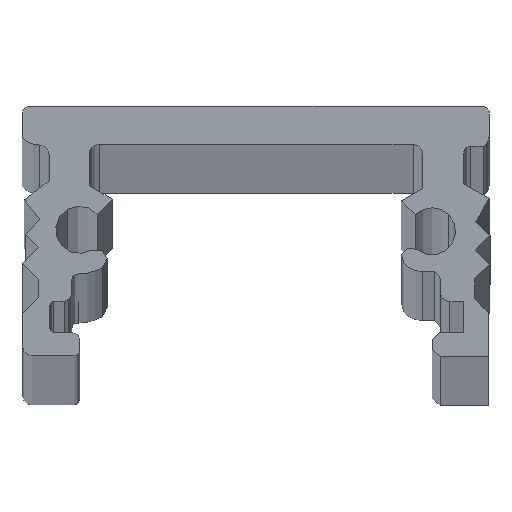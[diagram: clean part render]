
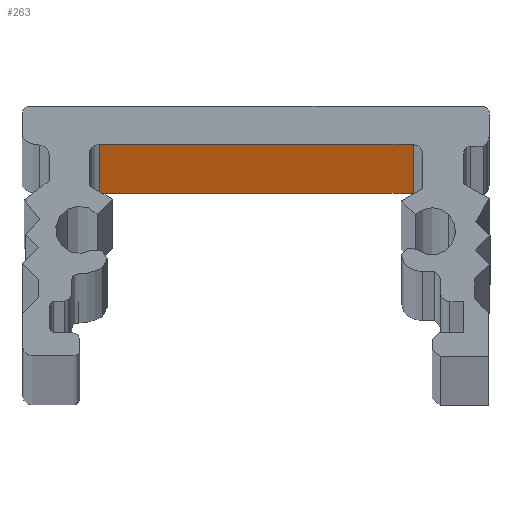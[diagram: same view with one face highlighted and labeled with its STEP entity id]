
A CAD part, top view. The second image highlights one B-rep face of the part: STEP entity #263.
In plain terms, the highlighted planar face has unit normal (0, -1, 0).
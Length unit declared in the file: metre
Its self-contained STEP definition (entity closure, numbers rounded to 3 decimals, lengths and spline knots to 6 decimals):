
#263=ADVANCED_FACE('4:12282',(#716),#717,.T.);
#716=FACE_OUTER_BOUND('',#1224,.T.);
#717=PLANE('',#1225);
#1224=EDGE_LOOP('',(#1946,#1947,#1948,#1949));
#1225=AXIS2_PLACEMENT_3D('',#1950,#1951,#1952);
#1946=ORIENTED_EDGE('',*,*,#2741,.T.);
#1947=ORIENTED_EDGE('',*,*,#2723,.T.);
#1948=ORIENTED_EDGE('',*,*,#2744,.F.);
#1949=ORIENTED_EDGE('',*,*,#2745,.T.);
#1950=CARTESIAN_POINT('',(-0.013628,0.013608,0.0));
#1951=DIRECTION('',(-0.0,-1.0,-0.0));
#1952=DIRECTION('',(-1.0,0.0,0.0));
#2723=EDGE_CURVE('4:12525',#3083,#3081,#3084,.F.);
#2741=EDGE_CURVE('4:12519',#3109,#3083,#3110,.T.);
#2744=EDGE_CURVE('4:12528',#3113,#3081,#3114,.T.);
#2745=EDGE_CURVE('4:12531',#3113,#3109,#3115,.T.);
#3081=VERTEX_POINT('',#3556);
#3083=VERTEX_POINT('',#3558);
#3084=LINE('',#3559,#3560);
#3109=VERTEX_POINT('',#3595);
#3110=LINE('',#3596,#3597);
#3113=VERTEX_POINT('',#3600);
#3114=LINE('',#3601,#3602);
#3115=LINE('',#3603,#3604);
#3556=CARTESIAN_POINT('',(-0.008047,0.013608,-1.0));
#3558=CARTESIAN_POINT('',(-0.019209,0.013608,-1.0));
#3559=CARTESIAN_POINT('',(-0.009586,0.013608,-1.0));
#3560=VECTOR('',#4081,1.0);
#3595=CARTESIAN_POINT('',(-0.019209,0.013608,0.0));
#3596=CARTESIAN_POINT('',(-0.019209,0.013608,0.0));
#3597=VECTOR('',#4098,1.0);
#3600=CARTESIAN_POINT('',(-0.008047,0.013608,0.0));
#3601=CARTESIAN_POINT('',(-0.008047,0.013608,0.0));
#3602=VECTOR('',#4102,1.0);
#3603=CARTESIAN_POINT('',(-0.008047,0.013608,0.0));
#3604=VECTOR('',#4103,1.0);
#4081=DIRECTION('',(-1.0,0.0,0.0));
#4098=DIRECTION('',(0.0,0.0,-1.0));
#4102=DIRECTION('',(0.0,0.0,-1.0));
#4103=DIRECTION('',(-1.0,0.0,0.0));
